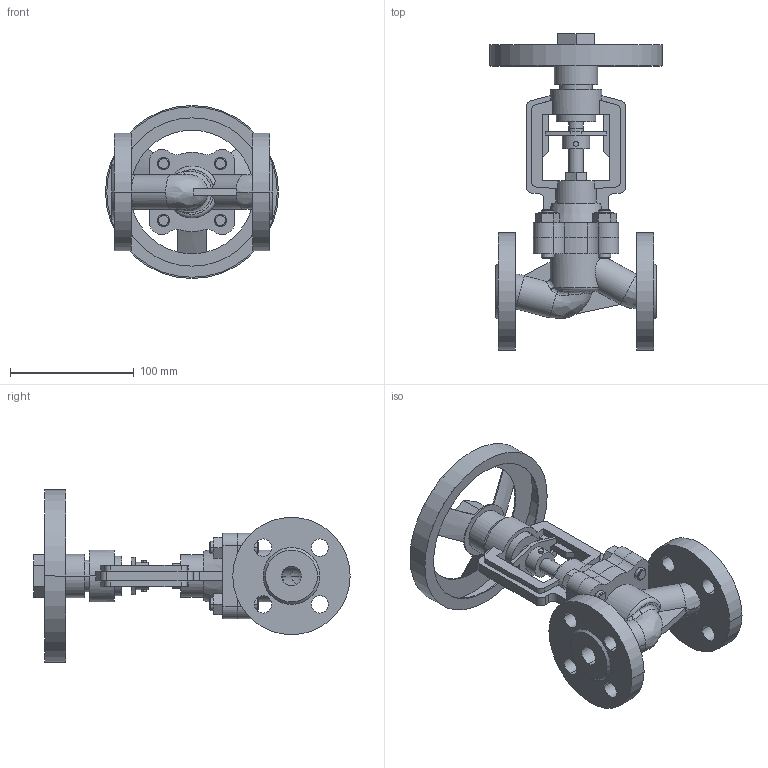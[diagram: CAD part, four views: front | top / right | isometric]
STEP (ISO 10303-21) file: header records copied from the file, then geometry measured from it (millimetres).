
FILE_DESCRIPTION((''),'2;1');
FILE_NAME('BSV-16F_SB_ASM','2026-05-05T',('user'),(''),'PRO/ENGINEER BY PARAMETRIC TECHNOLOGY CORPORATION, 2011220','PRO/ENGINEER BY PARAMETRIC TECHNOLOGY CORPORATION, 2011220','');
FILE_SCHEMA(('CONFIG_CONTROL_DESIGN'));
Length unit declared in the file: millimetre
Products named in the file (16): BSF-16F_KORPUS; BSF-16F_PROKLADKA; BSF-16F_KRISKA; BSF-16F_SHPILKA; G-5915-M10; BSF-16F_SEDLO; BSF-16F_PLUNZHER; BSF-16F_SHTOK_SILFON; BSF-16F_VTULKA; BSF-16F_UPLOTNENIE; BSF-16F_VTULKA_2; BSF-16F_VTULKA_3; BSF-16F_SHTURVAL; BSF-16F_GAIKA; SHTIFT; BSV-16F_SB_ASM
Assembly tree (22 placements, depth 2):
  BSV-16F_SB_ASM
    BSF-16F_KORPUS
    BSF-16F_PROKLADKA
    BSF-16F_KRISKA
    BSF-16F_SHPILKA  x4
    G-5915-M10  x4
    BSF-16F_SEDLO
    BSF-16F_PLUNZHER
    BSF-16F_SHTOK_SILFON
    BSF-16F_VTULKA
    BSF-16F_UPLOTNENIE
    BSF-16F_VTULKA_2
    BSF-16F_VTULKA_3
    BSF-16F_SHTURVAL
    BSF-16F_GAIKA
    SHTIFT  x2
Bounding box: 140 x 256 x 140 mm (x, y, z)
Volume: 524289.6 mm3; surface area: 224718.7 mm2
Topology: 23 solids, 40 shells, 567 faces, 1401 edges, 903 vertices
Faces by surface type: cylinder 244, plane 228, cone 66, bspline 19, torus 10
Entity records: 18642 total; most frequent: CARTESIAN_POINT 6405, DIRECTION 2635, ORIENTED_EDGE 2342, EDGE_CURVE 1199, AXIS2_PLACEMENT_3D 1043, VERTEX_POINT 779, EDGE_LOOP 584, VECTOR 549
